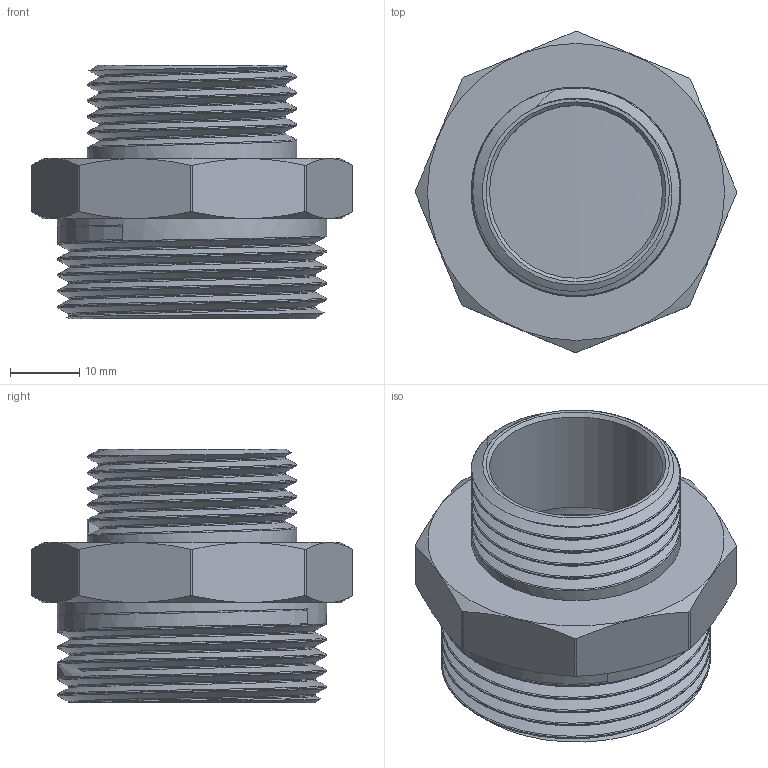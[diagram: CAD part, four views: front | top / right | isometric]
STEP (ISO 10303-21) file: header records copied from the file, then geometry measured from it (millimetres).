
FILE_DESCRIPTION(/* description */ (''),/* implementation_level */ '2;1');
FILE_NAME(/* name */ 'C:\Users\Doom\Desktop\Фадотех\Резьба\N15 18.03.2020\N15 18.03.2020.stp',/* time_stamp */ '2022-01-08T01:46:21+02:00',/* author */ ('Doom'),/* organization */ (''),/* preprocessor_version */ 'ST-DEVELOPER v18',/* originating_system */ 'Autodesk Inventor 2020',/* authorisation */ '');
FILE_SCHEMA (('AUTOMOTIVE_DESIGN { 1 0 10303 214 3 1 1 }'));
Length unit declared in the file: millimetre
Products named in the file (1): N15 18.03.2020
Bounding box: 46.4 x 46.4 x 36.7 mm (x, y, z)
Volume: 14789.5 mm3; surface area: 11547.9 mm2
Topology: 1 solids, 1 shells, 56 faces, 157 edges, 105 vertices
Faces by surface type: cylinder 23, plane 14, bspline 12, cone 7
Full cylindrical faces by diameter (mm): 25 x1, 30.29 x4, 33.5 x1, 38.95 x6
Entity records: 7408 total; most frequent: CARTESIAN_POINT 6046, ORIENTED_EDGE 314, DIRECTION 231, EDGE_CURVE 157, VERTEX_POINT 105, AXIS2_PLACEMENT_3D 94, EDGE_LOOP 60, ADVANCED_FACE 56
